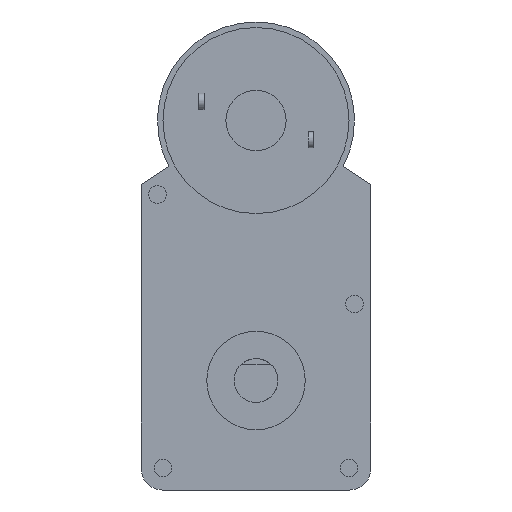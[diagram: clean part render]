
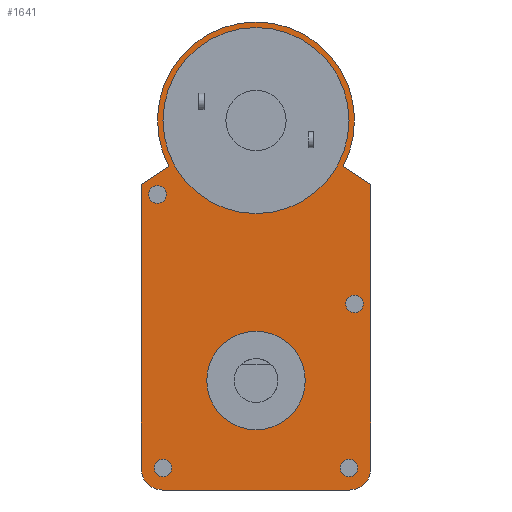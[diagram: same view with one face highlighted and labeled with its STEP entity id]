
A CAD part, front view. The second image highlights one B-rep face of the part: STEP entity #1641.
In plain terms, the highlighted planar face has unit normal (0, -1, 0).
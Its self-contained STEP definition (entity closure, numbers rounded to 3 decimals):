
#216=CARTESIAN_POINT('',(-6.,0.0,-56.5));
#217=VERTEX_POINT('',#216);
#218=CARTESIAN_POINT('',(-15.,0.0,-56.5));
#219=DIRECTION('',(0.0,1.0,0.0));
#220=DIRECTION('',(-1.0,0.0,0.0));
#221=AXIS2_PLACEMENT_3D('',#218,#219,#220);
#222=CIRCLE('',#221,9.0);
#223=EDGE_CURVE('',#217,#217,#222,.T.);
#637=CARTESIAN_POINT('',(2.,0.0,-9.));
#638=VERTEX_POINT('',#637);
#639=CARTESIAN_POINT('',(-15.,0.0,-9.));
#640=DIRECTION('',(0.0,1.0,0.0));
#641=DIRECTION('',(-1.0,0.0,0.0));
#642=AXIS2_PLACEMENT_3D('',#639,#640,#641);
#643=CIRCLE('',#642,17.0);
#644=EDGE_CURVE('',#638,#638,#643,.T.);
#837=CARTESIAN_POINT('',(-31.4,0.0,-22.5));
#838=VERTEX_POINT('',#837);
#839=CARTESIAN_POINT('',(-33.,0.0,-22.5));
#840=DIRECTION('',(0.0,1.0,0.0));
#841=DIRECTION('',(-1.0,0.0,0.0));
#842=AXIS2_PLACEMENT_3D('',#839,#840,#841);
#843=CIRCLE('',#842,1.6);
#844=EDGE_CURVE('',#838,#838,#843,.T.);
#874=CARTESIAN_POINT('',(4.6,0.0,-42.5));
#875=VERTEX_POINT('',#874);
#876=CARTESIAN_POINT('',(3.,0.0,-42.5));
#877=DIRECTION('',(0.0,1.0,0.0));
#878=DIRECTION('',(-1.0,0.0,0.0));
#879=AXIS2_PLACEMENT_3D('',#876,#877,#878);
#880=CIRCLE('',#879,1.6);
#881=EDGE_CURVE('',#875,#875,#880,.T.);
#911=CARTESIAN_POINT('',(-30.4,0.0,-72.5));
#912=VERTEX_POINT('',#911);
#913=CARTESIAN_POINT('',(-32.,0.0,-72.5));
#914=DIRECTION('',(0.0,1.0,0.0));
#915=DIRECTION('',(-1.0,0.0,0.0));
#916=AXIS2_PLACEMENT_3D('',#913,#914,#915);
#917=CIRCLE('',#916,1.6);
#918=EDGE_CURVE('',#912,#912,#917,.T.);
#948=CARTESIAN_POINT('',(3.6,0.0,-72.5));
#949=VERTEX_POINT('',#948);
#950=CARTESIAN_POINT('',(2.,0.0,-72.5));
#951=DIRECTION('',(0.0,1.0,0.0));
#952=DIRECTION('',(-1.0,0.0,0.0));
#953=AXIS2_PLACEMENT_3D('',#950,#951,#952);
#954=CIRCLE('',#953,1.6);
#955=EDGE_CURVE('',#949,#949,#954,.T.);
#985=CARTESIAN_POINT('',(-32.,0.0,-76.5));
#986=VERTEX_POINT('',#985);
#993=CARTESIAN_POINT('',(-36.,0.0,-72.5));
#994=VERTEX_POINT('',#993);
#995=CARTESIAN_POINT('',(-32.,0.0,-72.5));
#996=DIRECTION('',(0.0,1.0,0.0));
#997=DIRECTION('',(-0.707,0.0,-0.707));
#998=AXIS2_PLACEMENT_3D('',#995,#996,#997);
#999=CIRCLE('',#998,4.0);
#1000=EDGE_CURVE('',#986,#994,#999,.T.);
#1041=CARTESIAN_POINT('',(2.,0.0,-76.5));
#1042=VERTEX_POINT('',#1041);
#1049=CARTESIAN_POINT('',(2.,0.0,-76.5));
#1050=DIRECTION('',(-1.0,0.0,0.0));
#1051=VECTOR('',#1050,34.);
#1052=LINE('',#1049,#1051);
#1053=EDGE_CURVE('',#1042,#986,#1052,.T.);
#1179=CARTESIAN_POINT('',(6.,0.0,-72.5));
#1180=VERTEX_POINT('',#1179);
#1187=CARTESIAN_POINT('',(2.,0.0,-72.5));
#1188=DIRECTION('',(0.0,1.0,0.0));
#1189=DIRECTION('',(0.707,0.0,-0.707));
#1190=AXIS2_PLACEMENT_3D('',#1187,#1188,#1189);
#1191=CIRCLE('',#1190,4.0);
#1192=EDGE_CURVE('',#1180,#1042,#1191,.T.);
#1205=CARTESIAN_POINT('',(6.,0.,-20.68));
#1206=VERTEX_POINT('',#1205);
#1213=CARTESIAN_POINT('',(6.,0.0,-20.68));
#1214=DIRECTION('',(0.0,0.0,-1.0));
#1215=VECTOR('',#1214,51.82);
#1216=LINE('',#1213,#1215);
#1217=EDGE_CURVE('',#1206,#1180,#1216,.T.);
#1453=CARTESIAN_POINT('',(-30.911,0.0,-17.417));
#1454=VERTEX_POINT('',#1453);
#1463=CARTESIAN_POINT('',(0.911,0.0,-17.417));
#1464=VERTEX_POINT('',#1463);
#1465=CARTESIAN_POINT('',(-15.,0.0,-9.));
#1466=DIRECTION('',(0.0,1.0,0.0));
#1467=DIRECTION('',(-1.0,0.0,0.0));
#1468=AXIS2_PLACEMENT_3D('',#1465,#1466,#1467);
#1469=CIRCLE('',#1468,18.0);
#1470=EDGE_CURVE('',#1454,#1464,#1469,.T.);
#1553=CARTESIAN_POINT('',(6.,0.0,-20.68));
#1554=DIRECTION('',(-0.842,0.0,0.54));
#1555=VECTOR('',#1554,6.045);
#1556=LINE('',#1553,#1555);
#1557=EDGE_CURVE('',#1206,#1464,#1556,.T.);
#1573=CARTESIAN_POINT('',(-36.0,0.,-20.68));
#1574=VERTEX_POINT('',#1573);
#1581=CARTESIAN_POINT('',(-30.911,0.0,-17.417));
#1582=DIRECTION('',(-0.842,0.0,-0.54));
#1583=VECTOR('',#1582,6.045);
#1584=LINE('',#1581,#1583);
#1585=EDGE_CURVE('',#1454,#1574,#1584,.T.);
#1597=CARTESIAN_POINT('',(-36.,0.0,-72.5));
#1598=DIRECTION('',(0.0,0.0,1.0));
#1599=VECTOR('',#1598,51.82);
#1600=LINE('',#1597,#1599);
#1601=EDGE_CURVE('',#994,#1574,#1600,.T.);
#1608=CARTESIAN_POINT('',(-15.,0.0,-33.75));
#1609=DIRECTION('',(0.0,1.0,0.0));
#1610=DIRECTION('',(0.0,0.0,1.0));
#1611=AXIS2_PLACEMENT_3D('',#1608,#1609,#1610);
#1612=PLANE('',#1611);
#1613=ORIENTED_EDGE('',*,*,#1000,.F.);
#1614=ORIENTED_EDGE('',*,*,#1053,.F.);
#1615=ORIENTED_EDGE('',*,*,#1192,.F.);
#1616=ORIENTED_EDGE('',*,*,#1217,.F.);
#1617=ORIENTED_EDGE('',*,*,#1557,.T.);
#1618=ORIENTED_EDGE('',*,*,#1470,.F.);
#1619=ORIENTED_EDGE('',*,*,#1585,.T.);
#1620=ORIENTED_EDGE('',*,*,#1601,.F.);
#1621=EDGE_LOOP('',(#1613,#1614,#1615,#1616,#1617,#1618,#1619,#1620));
#1622=FACE_OUTER_BOUND('',#1621,.T.);
#1623=ORIENTED_EDGE('',*,*,#223,.T.);
#1624=EDGE_LOOP('',(#1623));
#1625=FACE_BOUND('',#1624,.T.);
#1626=ORIENTED_EDGE('',*,*,#644,.T.);
#1627=EDGE_LOOP('',(#1626));
#1628=FACE_BOUND('',#1627,.T.);
#1629=ORIENTED_EDGE('',*,*,#844,.T.);
#1630=EDGE_LOOP('',(#1629));
#1631=FACE_BOUND('',#1630,.T.);
#1632=ORIENTED_EDGE('',*,*,#881,.T.);
#1633=EDGE_LOOP('',(#1632));
#1634=FACE_BOUND('',#1633,.T.);
#1635=ORIENTED_EDGE('',*,*,#918,.T.);
#1636=EDGE_LOOP('',(#1635));
#1637=FACE_BOUND('',#1636,.T.);
#1638=ORIENTED_EDGE('',*,*,#955,.T.);
#1639=EDGE_LOOP('',(#1638));
#1640=FACE_BOUND('',#1639,.T.);
#1641=ADVANCED_FACE('',(#1622,#1625,#1628,#1631,#1634,#1637,#1640),#1612,.F.);
